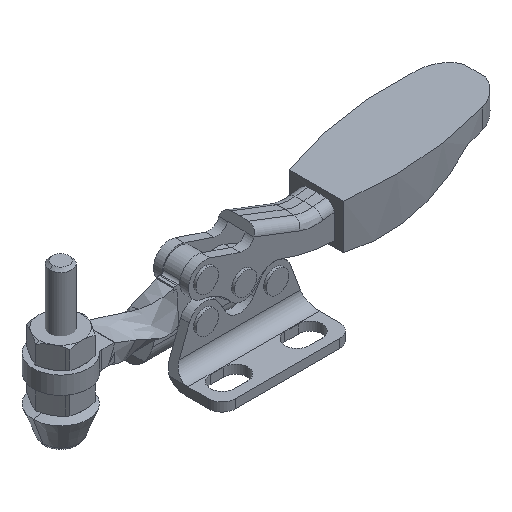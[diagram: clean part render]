
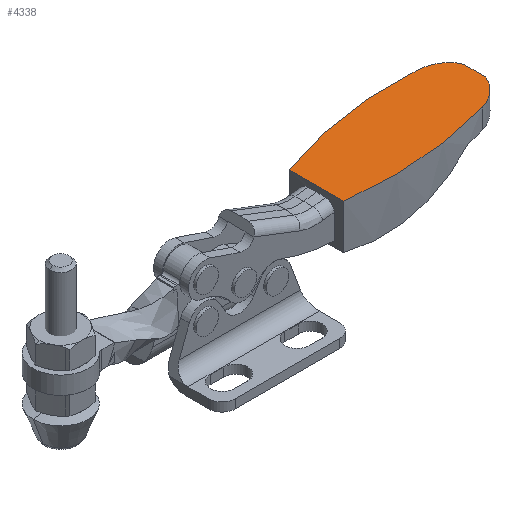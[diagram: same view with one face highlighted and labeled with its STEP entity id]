
A CAD part, isometric view. The second image highlights one B-rep face of the part: STEP entity #4338.
In plain terms, the highlighted planar face has unit normal (-0.129, 0, 0.992).
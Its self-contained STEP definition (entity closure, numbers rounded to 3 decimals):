
#4119=CARTESIAN_POINT('Cartesian Point',(66.451,-5.877,19.153)) ;
#4125=CARTESIAN_POINT('Control Point',(66.451,-5.877,19.153)) ;
#4126=CARTESIAN_POINT('Control Point',(60.417,-7.12,18.368)) ;
#4127=CARTESIAN_POINT('Control Point',(54.185,-7.39,17.556)) ;
#4128=CARTESIAN_POINT('Control Point',(47.991,-6.642,16.75)) ;
#4129=CARTESIAN_POINT('Control Point',(42.069,-4.94,15.979)) ;
#4130=CARTESIAN_POINT('Cartesian Point',(42.069,-4.94,15.979)) ;
#4173=CARTESIAN_POINT('Cartesian Point',(66.451,5.877,19.153)) ;
#4179=CARTESIAN_POINT('Control Point',(66.451,5.877,19.153)) ;
#4180=CARTESIAN_POINT('Control Point',(67.958,5.566,19.35)) ;
#4181=CARTESIAN_POINT('Control Point',(69.364,4.738,19.535)) ;
#4182=CARTESIAN_POINT('Control Point',(70.381,3.457,19.666)) ;
#4183=CARTESIAN_POINT('Control Point',(70.896,2.003,19.732)) ;
#4184=CARTESIAN_POINT('Cartesian Point',(70.896,2.003,19.732)) ;
#4200=CARTESIAN_POINT('Cartesian Point',(70.896,-2.003,19.732)) ;
#4204=CARTESIAN_POINT('Control Point',(70.896,-2.003,19.732)) ;
#4205=CARTESIAN_POINT('Control Point',(70.381,-3.457,19.666)) ;
#4206=CARTESIAN_POINT('Control Point',(69.364,-4.738,19.535)) ;
#4207=CARTESIAN_POINT('Control Point',(67.958,-5.566,19.35)) ;
#4208=CARTESIAN_POINT('Control Point',(66.451,-5.877,19.153)) ;
#4239=CARTESIAN_POINT('Cartesian Point',(42.069,4.94,15.979)) ;
#4245=CARTESIAN_POINT('Control Point',(42.069,4.94,15.979)) ;
#4246=CARTESIAN_POINT('Control Point',(47.991,6.642,16.75)) ;
#4247=CARTESIAN_POINT('Control Point',(54.185,7.39,17.556)) ;
#4248=CARTESIAN_POINT('Control Point',(60.417,7.12,18.368)) ;
#4249=CARTESIAN_POINT('Control Point',(66.451,5.877,19.153)) ;
#4285=CARTESIAN_POINT('Line Origine',(42.069,0.,15.979)) ;
#4315=CARTESIAN_POINT('Line Origine',(70.896,0.,19.732)) ;
#4325=CARTESIAN_POINT('Axis2P3D Location',(70.896,-25.4,19.732)) ;
#4286=DIRECTION('Vector Direction',(0.,1.,0.)) ;
#4316=DIRECTION('Vector Direction',(0.,1.,0.)) ;
#4326=DIRECTION('Axis2P3D Direction',(0.129,0.,-0.992)) ;
#4327=DIRECTION('Axis2P3D XDirection',(0.,-1.,0.)) ;
#4328=AXIS2_PLACEMENT_3D('Plane Axis2P3D',#4325,#4326,#4327) ;
#4331=ORIENTED_EDGE('Oriented Edge',*,*,#4289,.F.) ;
#4332=ORIENTED_EDGE('Oriented Edge',*,*,#4132,.F.) ;
#4333=ORIENTED_EDGE('Oriented Edge',*,*,#4209,.F.) ;
#4334=ORIENTED_EDGE('Oriented Edge',*,*,#4319,.T.) ;
#4335=ORIENTED_EDGE('Oriented Edge',*,*,#4186,.F.) ;
#4336=ORIENTED_EDGE('Oriented Edge',*,*,#4250,.F.) ;
#4287=VECTOR('Line Direction',#4286,1.) ;
#4317=VECTOR('Line Direction',#4316,1.) ;
#4338=ADVANCED_FACE('',(#4337),#4329,.F.) ;
#4124=B_SPLINE_CURVE_WITH_KNOTS('BSpline Curve',4,(#4125,#4126,#4127,#4128,#4129),.UNSPECIFIED.,.F.,.U.,(5,5),(0.,24.842),.UNSPECIFIED.) ;
#4178=B_SPLINE_CURVE_WITH_KNOTS('BSpline Curve',4,(#4179,#4180,#4181,#4182,#4183),.UNSPECIFIED.,.F.,.U.,(5,5),(0.,6.194),.UNSPECIFIED.) ;
#4203=B_SPLINE_CURVE_WITH_KNOTS('BSpline Curve',4,(#4204,#4205,#4206,#4207,#4208),.UNSPECIFIED.,.F.,.U.,(5,5),(0.,6.194),.UNSPECIFIED.) ;
#4244=B_SPLINE_CURVE_WITH_KNOTS('BSpline Curve',4,(#4245,#4246,#4247,#4248,#4249),.UNSPECIFIED.,.F.,.U.,(5,5),(0.,24.842),.UNSPECIFIED.) ;
#4132=EDGE_CURVE('',#4120,#4131,#4124,.T.) ;
#4186=EDGE_CURVE('',#4174,#4185,#4178,.T.) ;
#4209=EDGE_CURVE('',#4201,#4120,#4203,.T.) ;
#4250=EDGE_CURVE('',#4240,#4174,#4244,.T.) ;
#4289=EDGE_CURVE('',#4131,#4240,#4288,.T.) ;
#4319=EDGE_CURVE('',#4201,#4185,#4318,.T.) ;
#4330=EDGE_LOOP('Oriented Loop',(#4331,#4332,#4333,#4334,#4335,#4336)) ;
#4337=FACE_OUTER_BOUND('Face Bound',#4330,.T.) ;
#4288=LINE('Line',#4285,#4287) ;
#4318=LINE('Line',#4315,#4317) ;
#4329=PLANE('Plane',#4328) ;
#4120=VERTEX_POINT('Vertex Point',#4119) ;
#4131=VERTEX_POINT('Vertex Point',#4130) ;
#4174=VERTEX_POINT('Vertex Point',#4173) ;
#4185=VERTEX_POINT('Vertex Point',#4184) ;
#4201=VERTEX_POINT('Vertex Point',#4200) ;
#4240=VERTEX_POINT('Vertex Point',#4239) ;
